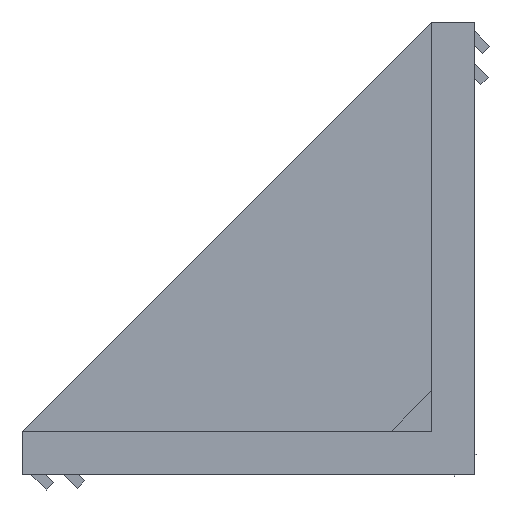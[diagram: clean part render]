
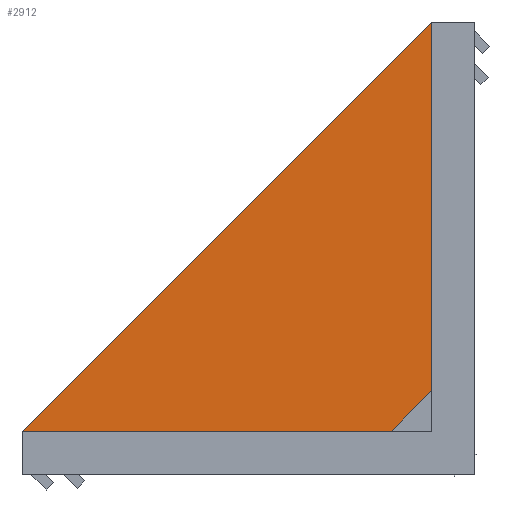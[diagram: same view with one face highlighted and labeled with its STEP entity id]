
A CAD part, left-side view. The second image highlights one B-rep face of the part: STEP entity #2912.
In plain terms, the highlighted planar face has unit normal (-1, 0, 0).
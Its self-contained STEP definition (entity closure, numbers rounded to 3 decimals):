
#8 = VECTOR ( 'NONE', #2824, 1000. ) ;
#38 = DIRECTION ( 'NONE',  ( 0., 1., 0. ) ) ;
#214 = CARTESIAN_POINT ( 'NONE',  ( 7.024, 0., 0. ) ) ;
#231 = VERTEX_POINT ( 'NONE', #2111 ) ;
#401 = VECTOR ( 'NONE', #1364, 1000. ) ;
#499 = DIRECTION ( 'NONE',  ( 0., -1., 0. ) ) ;
#554 = ORIENTED_EDGE ( 'NONE', *, *, #836, .F. ) ;
#630 = FACE_OUTER_BOUND ( 'NONE', #2528, .T. ) ;
#632 = EDGE_CURVE ( 'NONE', #231, #1505, #1572, .T. ) ;
#712 = EDGE_CURVE ( 'NONE', #1724, #231, #1130, .T. ) ;
#836 = EDGE_CURVE ( 'NONE', #1505, #1724, #2179, .T. ) ;
#851 = CARTESIAN_POINT ( 'NONE',  ( 7.024, -30.482, 8.5 ) ) ;
#1056 = AXIS2_PLACEMENT_3D ( 'NONE', #214, #2163, #499 ) ;
#1130 = LINE ( 'NONE', #1923, #401 ) ;
#1194 = CARTESIAN_POINT ( 'NONE',  ( 7.024, 49.019, 8.5 ) ) ;
#1218 = ORIENTED_EDGE ( 'NONE', *, *, #632, .F. ) ;
#1364 = DIRECTION ( 'NONE',  ( 0., -0.707, 0.707 ) ) ;
#1505 = VERTEX_POINT ( 'NONE', #2778 ) ;
#1560 = ORIENTED_EDGE ( 'NONE', *, *, #712, .F. ) ;
#1572 = LINE ( 'NONE', #2279, #8 ) ;
#1724 = VERTEX_POINT ( 'NONE', #1194 ) ;
#1886 = PLANE ( 'NONE',  #1056 ) ;
#1923 = CARTESIAN_POINT ( 'NONE',  ( 7.024, 49.019, 8.5 ) ) ;
#2111 = CARTESIAN_POINT ( 'NONE',  ( 7.024, -30.482, 88. ) ) ;
#2163 = DIRECTION ( 'NONE',  ( -1., 0., 0. ) ) ;
#2179 = LINE ( 'NONE', #851, #3545 ) ;
#2279 = CARTESIAN_POINT ( 'NONE',  ( 7.024, -30.482, 88. ) ) ;
#2528 = EDGE_LOOP ( 'NONE', ( #554, #1218, #1560 ) ) ;
#2778 = CARTESIAN_POINT ( 'NONE',  ( 7.024, -30.482, 8.5 ) ) ;
#2824 = DIRECTION ( 'NONE',  ( 0., 0., -1. ) ) ;
#2912 = ADVANCED_FACE ( 'NONE', ( #630 ), #1886, .T. ) ;
#3545 = VECTOR ( 'NONE', #38, 1000. ) ;
